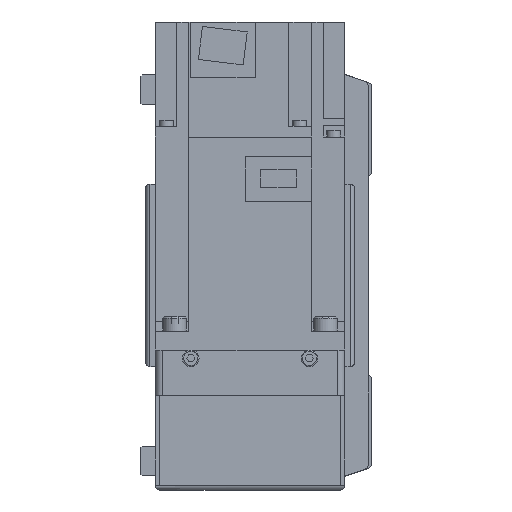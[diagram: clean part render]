
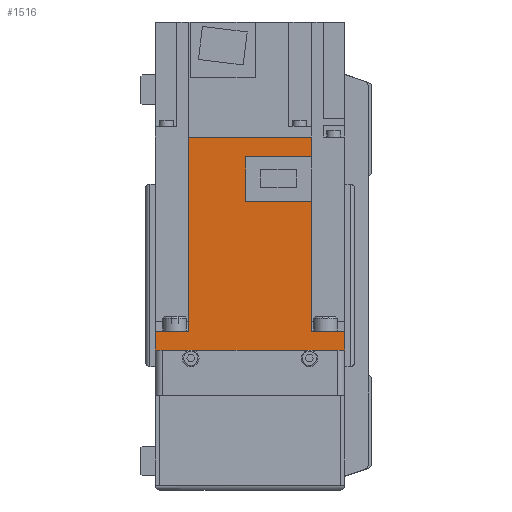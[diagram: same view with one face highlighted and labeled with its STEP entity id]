
A CAD part, left-side view. The second image highlights one B-rep face of the part: STEP entity #1516.
In plain terms, the highlighted planar face has unit normal (-1, 0, 0) as drawn and (1, 0, 0) by its records, which use the part's own axes.
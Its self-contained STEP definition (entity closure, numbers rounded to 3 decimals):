
#1516 = ADVANCED_FACE( '', ( #3722 ), #3723, .F. );
#3722 = FACE_OUTER_BOUND( '', #6782, .T. );
#3723 = PLANE( '', #6783 );
#6782 = EDGE_LOOP( '', ( #10969, #10970, #10971, #10972, #10973, #10974, #10975, #10976, #10977, #10978, #10979, #10980 ) );
#6783 = AXIS2_PLACEMENT_3D( '', #10981, #10982, #10983 );
#10969 = ORIENTED_EDGE( '', *, *, #18743, .F. );
#10970 = ORIENTED_EDGE( '', *, *, #18744, .F. );
#10971 = ORIENTED_EDGE( '', *, *, #17829, .F. );
#10972 = ORIENTED_EDGE( '', *, *, #18745, .T. );
#10973 = ORIENTED_EDGE( '', *, *, #18746, .F. );
#10974 = ORIENTED_EDGE( '', *, *, #18747, .T. );
#10975 = ORIENTED_EDGE( '', *, *, #18748, .T. );
#10976 = ORIENTED_EDGE( '', *, *, #18749, .F. );
#10977 = ORIENTED_EDGE( '', *, *, #18750, .F. );
#10978 = ORIENTED_EDGE( '', *, *, #18751, .F. );
#10979 = ORIENTED_EDGE( '', *, *, #18752, .F. );
#10980 = ORIENTED_EDGE( '', *, *, #18753, .F. );
#10981 = CARTESIAN_POINT( '', ( 40., 89.8, 40. ) );
#10982 = DIRECTION( '', ( -1., 0., 0. ) );
#10983 = DIRECTION( '', ( 0., 0., 1. ) );
#17829 = EDGE_CURVE( '', #21274, #21270, #21276, .T. );
#18743 = EDGE_CURVE( '', #21985, #22849, #22850, .T. );
#18744 = EDGE_CURVE( '', #21270, #21985, #22851, .T. );
#18745 = EDGE_CURVE( '', #21274, #22852, #22853, .T. );
#18746 = EDGE_CURVE( '', #22854, #22852, #22855, .T. );
#18747 = EDGE_CURVE( '', #22854, #22856, #22857, .T. );
#18748 = EDGE_CURVE( '', #22856, #22858, #22859, .T. );
#18749 = EDGE_CURVE( '', #22860, #22858, #22861, .T. );
#18750 = EDGE_CURVE( '', #22862, #22860, #22863, .T. );
#18751 = EDGE_CURVE( '', #21986, #22862, #22864, .T. );
#18752 = EDGE_CURVE( '', #22865, #21986, #22866, .T. );
#18753 = EDGE_CURVE( '', #22849, #22865, #22867, .T. );
#21270 = VERTEX_POINT( '', #26327 );
#21274 = VERTEX_POINT( '', #26333 );
#21276 = LINE( '', #26336, #26337 );
#21985 = VERTEX_POINT( '', #27287 );
#21986 = VERTEX_POINT( '', #27288 );
#22849 = VERTEX_POINT( '', #28517 );
#22850 = LINE( '', #28518, #28519 );
#22851 = LINE( '', #28520, #28521 );
#22852 = VERTEX_POINT( '', #28522 );
#22853 = LINE( '', #28523, #28524 );
#22854 = VERTEX_POINT( '', #28525 );
#22855 = LINE( '', #28526, #28527 );
#22856 = VERTEX_POINT( '', #28528 );
#22857 = LINE( '', #28529, #28530 );
#22858 = VERTEX_POINT( '', #28531 );
#22859 = LINE( '', #28532, #28533 );
#22860 = VERTEX_POINT( '', #28534 );
#22861 = LINE( '', #28535, #28536 );
#22862 = VERTEX_POINT( '', #28537 );
#22863 = LINE( '', #28538, #28539 );
#22864 = LINE( '', #28540, #28541 );
#22865 = VERTEX_POINT( '', #28542 );
#22866 = LINE( '', #28543, #28544 );
#22867 = LINE( '', #28545, #28546 );
#26327 = CARTESIAN_POINT( '', ( 40., 89.8, -25.95 ) );
#26333 = CARTESIAN_POINT( '', ( 40., 89.8, 25.95 ) );
#26336 = CARTESIAN_POINT( '', ( 40., 89.8, 40. ) );
#26337 = VECTOR( '', #33049, 1000. );
#27287 = CARTESIAN_POINT( '', ( 40., 81.4, -25.95 ) );
#27288 = CARTESIAN_POINT( '', ( 40., 62.8, -25.95 ) );
#28517 = CARTESIAN_POINT( '', ( 40., 81.4, 1.8 ) );
#28518 = CARTESIAN_POINT( '', ( 40., 81.4, -26. ) );
#28519 = VECTOR( '', #34250, 1000. );
#28520 = CARTESIAN_POINT( '', ( 40., 158., -25.95 ) );
#28521 = VECTOR( '', #34251, 1000. );
#28522 = CARTESIAN_POINT( '', ( 40., 8., 25.95 ) );
#28523 = CARTESIAN_POINT( '', ( 40., 158., 25.95 ) );
#28524 = VECTOR( '', #34252, 1000. );
#28525 = CARTESIAN_POINT( '', ( 40., 8., 40. ) );
#28526 = CARTESIAN_POINT( '', ( 40., 8., 40. ) );
#28527 = VECTOR( '', #34253, 1000. );
#28528 = CARTESIAN_POINT( '', ( 40., 0., 40. ) );
#28529 = CARTESIAN_POINT( '', ( 40., 89.8, 40. ) );
#28530 = VECTOR( '', #34254, 1000. );
#28531 = CARTESIAN_POINT( '', ( 40., 0., -40. ) );
#28532 = CARTESIAN_POINT( '', ( 40., 0., 40. ) );
#28533 = VECTOR( '', #34255, 1000. );
#28534 = CARTESIAN_POINT( '', ( 40., 8., -40. ) );
#28535 = CARTESIAN_POINT( '', ( 40., 89.8, -40. ) );
#28536 = VECTOR( '', #34256, 1000. );
#28537 = CARTESIAN_POINT( '', ( 40., 8., -25.95 ) );
#28538 = CARTESIAN_POINT( '', ( 40., 8., 40. ) );
#28539 = VECTOR( '', #34257, 1000. );
#28540 = CARTESIAN_POINT( '', ( 40., 158., -25.95 ) );
#28541 = VECTOR( '', #34258, 1000. );
#28542 = CARTESIAN_POINT( '', ( 40., 62.8, 1.8 ) );
#28543 = CARTESIAN_POINT( '', ( 40., 62.8, 1.8 ) );
#28544 = VECTOR( '', #34259, 1000. );
#28545 = CARTESIAN_POINT( '', ( 40., 81.4, 1.8 ) );
#28546 = VECTOR( '', #34260, 1000. );
#33049 = DIRECTION( '', ( 0., 0., -1. ) );
#34250 = DIRECTION( '', ( 0., 0., 1. ) );
#34251 = DIRECTION( '', ( 0., -1., 0. ) );
#34252 = DIRECTION( '', ( 0., -1., 0. ) );
#34253 = DIRECTION( '', ( 0., 0., -1. ) );
#34254 = DIRECTION( '', ( 0., -1., 0. ) );
#34255 = DIRECTION( '', ( 0., 0., -1. ) );
#34256 = DIRECTION( '', ( 0., -1., 0. ) );
#34257 = DIRECTION( '', ( 0., 0., -1. ) );
#34258 = DIRECTION( '', ( 0., -1., 0. ) );
#34259 = DIRECTION( '', ( 0., 0., -1. ) );
#34260 = DIRECTION( '', ( 0., -1., 0. ) );
